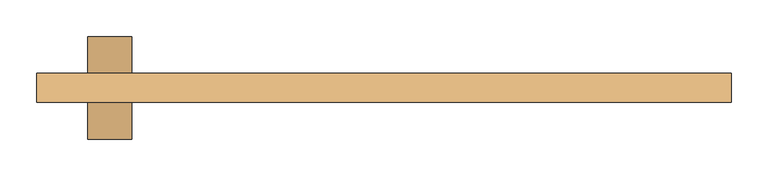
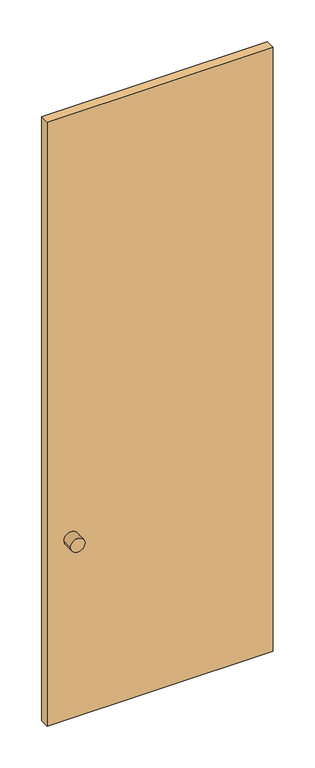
"""IFC4 building model written with IfcOpenShell, lengths in millimetres: door geometry, 営_片開き扉 : SD6 950*2685."""

from ifc_helpers import new_model, si_unit, point, frame, frame_2d, origin, origin_with_axes, place, context, project, spatial, polyline, circle_curve, trimmed, segment, composite_curve, outline, extrude, source, transform, mapped, element, save


def door_1cafa6bb(model_context):
    return source(origin(), model_context, "Body", "SweptSolid", [
        extrude(outline(composite_curve([segment(trimmed(circle_curve(frame_2d((800.0, -375.0)), 30.0), [point((800.0, -345.0))], [point((800.0, -405.0))], False, "CARTESIAN"), True, "CONTINUOUS"), segment(trimmed(circle_curve(frame_2d((800.0, -375.0)), 30.0), [point((800.0, -405.0))], [point((800.0, -345.0))], False, "CARTESIAN"), True, "CONTINUOUS")], self_intersect=False)), frame((0.0, -10.0, 0.0), z_axis=(0.0, 1.0, 0.0), x_axis=(0.0, 0.0, 1.0)), (0.0, 0.0, 1.0), 50.0),
        extrude(outline(composite_curve([segment(trimmed(circle_curve(frame_2d((800.0, -375.0)), 30.0), [point((800.0, -345.0))], [point((800.0, -405.0))], False, "CARTESIAN"), True, "CONTINUOUS"), segment(trimmed(circle_curve(frame_2d((800.0, -375.0)), 30.0), [point((800.0, -405.0))], [point((800.0, -345.0))], False, "CARTESIAN"), True, "CONTINUOUS")], self_intersect=False)), frame((0.0, 80.0, 0.0), z_axis=(0.0, 1.0, 0.0), x_axis=(0.0, 0.0, 1.0)), (0.0, 0.0, 1.0), 50.0),
        extrude(outline(polyline([(-475.0, 40.0), (-475.0, 80.0), (475.0, 80.0), (475.0, 40.0), (-475.0, 40.0)])), origin_with_axes(), (0.0, 0.0, 1.0), 2685.0),
    ])


if __name__ == "__main__":
    model = new_model("IFC4")
    model_context = context("Model", 3, world=origin())
    ifc_project = project(units=[si_unit("LENGTHUNIT", "METRE", prefix="MILLI")], contexts=[model_context])
    site = spatial("IfcSite", under=ifc_project)
    building = spatial("IfcBuilding", under=site)
    placement = place(None, origin())
    door_shape = door_1cafa6bb(model_context)
    element("IfcDoor", 1, ObjectType="営_片開き扉 : SD6 950*2685", at=placement, inside=building, context=model_context, shape_type="MappedRepresentation", body=[
        mapped(door_shape, transform((0.0, 0.0, 0.0), x_axis=(1.0, 0.0, 0.0), y_axis=(0.0, 1.0, 0.0), z_axis=(0.0, 0.0, 1.0))),
    ])
    save(model, "model.ifc")
